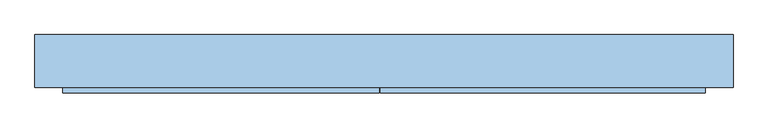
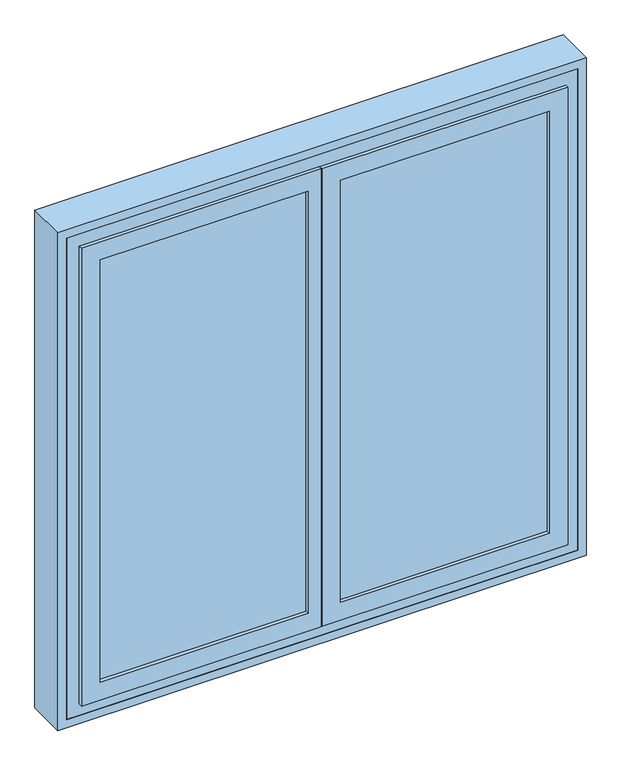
"""IFC4 building model written with IfcOpenShell, lengths in millimetres: window geometry, Окно 2-Распашное - Разделенные наружные и парные внутренние переплеты с остеклением - ГОСТ 11214-2003 : ОД РСП Г1 1760-1770-138 ГОСТ 11214-2003."""

from ifc_helpers import new_model, si_unit, frame, origin, place, context, project, spatial, polyline, outline, extrude, faceted_brep, source, transform, mapped, element, save


def window_825c4489(model_context):
    return source(origin(), model_context, "Body", "SolidModel", [
        extrude(outline(polyline([(2620.0, -935.0), (800.0, -935.0), (800.0, 895.0), (2620.0, 895.0), (2620.0, -935.0)]), holes=[polyline([(2590.0, 865.0), (830.0, 865.0), (830.0, -905.0), (2590.0, -905.0), (2590.0, 865.0)])]), frame((0.0, 167.0, 0.0), z_axis=(0.0, 1.0, 0.0), x_axis=(0.0, 0.0, 1.0)), (0.0, 0.0, 1.0), 138.0),
        extrude(outline(polyline([(764.0, 262.0), (764.0, 259.0), (15.0, 259.0), (15.0, 262.0), (764.0, 262.0)])), frame((0.0, 0.0, 931.0), z_axis=(0.0, 0.0, 1.0), x_axis=(1.0, 0.0, 0.0)), (0.0, 0.0, 1.0), 1558.0),
        faceted_brep([(800.0, 259.0, 2525.0), (800.0, 259.0, 895.0), (800.0, 287.0, 895.0), (800.0, 287.0, 2525.0), (-20.0, 259.0, 895.0), (-20.0, 287.0, 895.0), (-30.0, 259.0, 2534.0), (809.0, 259.0, 2534.0), (809.0, 259.0, 886.0), (-30.0, 259.0, 886.0), (-30.0, 259.0, 895.0), (-20.0, 259.0, 2525.0), (-30.0, 259.0, 2525.0), (-20.0, 287.0, 2525.0), (-20.0, 257.0, 895.0), (-20.0, 257.0, 2525.0), (744.0, 287.0, 951.0), (744.0, 287.0, 2469.0), (35.0, 287.0, 2469.0), (35.0, 287.0, 951.0), (-30.0, 257.0, 2525.0), (-30.0, 257.0, 895.0), (-30.0, 246.0, 886.0), (-30.0, 246.0, 2534.0), (809.0, 246.0, 886.0), (809.0, 246.0, 2534.0), (744.0, 246.0, 2469.0), (744.0, 246.0, 951.0), (35.0, 246.0, 951.0), (35.0, 246.0, 2469.0), (744.0, 259.0, 2469.0), (744.0, 259.0, 951.0), (35.0, 259.0, 951.0), (35.0, 259.0, 2469.0), (764.0, 259.0, 2489.0), (764.0, 259.0, 931.0), (15.0, 259.0, 931.0), (15.0, 259.0, 2489.0), (764.0, 262.0, 2489.0), (764.0, 262.0, 931.0), (15.0, 262.0, 931.0), (15.0, 262.0, 2489.0), (744.0, 262.0, 2469.0), (744.0, 262.0, 951.0), (35.0, 262.0, 951.0), (35.0, 262.0, 2469.0)], [[[0, 1, 2, 3]], [[2, 1, 4, 5]], [[6, 7, 8, 9, 10, 4, 1, 0, 11, 12]], [[11, 13, 5, 4, 14, 15]], [[3, 2, 5, 13], [16, 17, 18, 19]], [[20, 21, 10, 9, 22, 23, 6, 12]], [[21, 20, 15, 14]], [[4, 10, 21, 14]], [[8, 24, 22, 9]], [[24, 25, 23, 22], [26, 27, 28, 29]], [[30, 31, 27, 26]], [[27, 31, 32, 28]], [[29, 28, 32, 33]], [[25, 24, 8, 7]], [[34, 35, 36, 37], [31, 30, 33, 32]], [[38, 39, 35, 34]], [[35, 39, 40, 36]], [[41, 37, 36, 40]], [[39, 38, 41, 40], [42, 43, 44, 45]], [[42, 17, 16, 43]], [[43, 16, 19, 44]], [[45, 44, 19, 18]], [[0, 3, 13, 11]], [[12, 11, 15, 20]], [[23, 25, 7, 6]], [[30, 26, 29, 33]], [[38, 34, 37, 41]], [[17, 42, 45, 18]]]),
        extrude(outline(polyline([(777.0, 212.0), (15.0, 212.0), (15.0, 215.0), (777.0, 215.0), (777.0, 212.0)])), frame((0.0, 0.0, 918.0), z_axis=(0.0, 0.0, 1.0), x_axis=(1.0, 0.0, 0.0)), (0.0, 0.0, 1.0), 1584.0),
        faceted_brep([(812.0, 228.0, 883.0), (812.0, 196.0, 883.0), (-20.0, 196.0, 883.0), (-20.0, 228.0, 883.0), (-20.0, 196.0, 2537.0), (-20.0, 228.0, 2537.0), (812.0, 196.0, 2537.0), (35.0, 196.0, 2482.0), (757.0, 196.0, 2482.0), (757.0, 196.0, 938.0), (35.0, 196.0, 938.0), (812.0, 228.0, 2537.0), (35.0, 228.0, 938.0), (757.0, 228.0, 938.0), (757.0, 228.0, 2482.0), (35.0, 228.0, 2482.0), (757.0, 215.0, 938.0), (35.0, 215.0, 938.0), (35.0, 215.0, 2482.0), (15.0, 215.0, 918.0), (777.0, 215.0, 918.0), (777.0, 215.0, 2502.0), (15.0, 215.0, 2502.0), (757.0, 215.0, 2482.0), (777.0, 212.0, 918.0), (15.0, 212.0, 918.0), (15.0, 212.0, 2502.0), (777.0, 212.0, 2502.0), (35.0, 212.0, 938.0), (757.0, 212.0, 938.0), (757.0, 212.0, 2482.0), (35.0, 212.0, 2482.0)], [[[0, 1, 2, 3]], [[3, 2, 4, 5]], [[2, 1, 6, 4], [7, 8, 9, 10]], [[5, 11, 0, 3], [12, 13, 14, 15]], [[16, 13, 12, 17]], [[17, 12, 15, 18]], [[19, 20, 21, 22], [18, 23, 16, 17]], [[24, 20, 19, 25]], [[25, 19, 22, 26]], [[26, 27, 24, 25], [28, 29, 30, 31]], [[9, 29, 28, 10]], [[10, 28, 31, 7]], [[11, 6, 1, 0]], [[23, 14, 13, 16]], [[27, 21, 20, 24]], [[8, 30, 29, 9]], [[5, 4, 6, 11]], [[18, 15, 14, 23]], [[26, 22, 21, 27]], [[7, 31, 30, 8]]]),
        faceted_brep([(-30.0, 152.0, 873.0383918), (821.9616082, 152.0, 873.0383918), (821.9616082, 152.0, 2546.9616082), (-30.0, 152.0, 2546.9616082), (756.9616082, 152.0, 938.0383918), (35.0, 152.0, 938.0383918), (35.0, 152.0, 2481.9616082), (756.9616082, 152.0, 2481.9616082), (-30.0, 165.0, 873.0383918), (821.9616082, 165.0, 873.0383918), (821.9616082, 165.0, 2546.9616082), (-30.0, 165.0, 2546.9616082), (756.9616082, 165.0, 938.0383918), (35.0, 165.0, 938.0383918), (35.0, 165.0, 2481.9616082), (756.9616082, 165.0, 2481.9616082), (812.0, 165.0, 2537.0), (812.0, 165.0, 883.0), (812.0, 194.0, 883.0), (812.0, 194.0, 2537.0), (-20.0, 165.0, 2537.0), (-20.0, 165.0, 883.0), (-20.0, 194.0, 2537.0), (-20.0, 194.0, 883.0), (756.9616082, 194.0, 2481.9616082), (35.0, 194.0, 2481.9616082), (35.0, 194.0, 938.0383918), (756.9616082, 194.0, 938.0383918), (777.0, 168.0, 918.0), (777.0, 168.0, 2502.0), (15.0, 168.0, 2502.0), (15.0, 168.0, 918.0), (756.9616082, 168.0, 2481.9616082), (756.9616082, 168.0, 938.0383918), (35.0, 168.0, 938.0383918), (35.0, 168.0, 2481.9616082), (777.0, 165.0, 918.0), (777.0, 165.0, 2502.0), (15.0, 165.0, 2502.0), (15.0, 165.0, 918.0)], [[[0, 1, 2, 3], [4, 5, 6, 7]], [[0, 8, 9, 1]], [[2, 1, 9, 10]], [[0, 3, 11, 8]], [[4, 12, 13, 5]], [[6, 5, 13, 14]], [[15, 12, 4, 7]], [[16, 17, 18, 19]], [[11, 10, 9, 8], [17, 16, 20, 21]], [[21, 20, 22, 23]], [[23, 18, 17, 21]], [[23, 22, 19, 18], [24, 25, 26, 27]], [[28, 29, 30, 31], [32, 33, 34, 35]], [[32, 24, 27, 33]], [[33, 27, 26, 34]], [[35, 34, 26, 25]], [[29, 28, 36, 37]], [[31, 30, 38, 39]], [[39, 36, 28, 31]], [[37, 36, 39, 38], [15, 14, 13, 12]], [[11, 3, 2, 10]], [[15, 7, 6, 14]], [[19, 22, 20, 16]], [[24, 32, 35, 25]], [[30, 29, 37, 38]]]),
        extrude(outline(polyline([(15.0, 165.0), (15.0, 168.0), (777.0, 168.0), (777.0, 165.0), (15.0, 165.0)])), frame((0.0, 0.0, 918.0), z_axis=(0.0, 0.0, 1.0), x_axis=(1.0, 0.0, 0.0)), (0.0, 0.0, 1.0), 1584.0),
        faceted_brep([(-22.0, 287.0, 895.0), (-22.0, 259.0, 895.0), (-32.0, 259.0, 895.0), (-840.0, 259.0, 895.0), (-840.0, 287.0, 895.0), (-22.0, 287.0, 2525.0), (-22.0, 259.0, 2525.0), (-32.0, 259.0, 2525.0), (-32.0, 259.0, 2534.0), (-840.0, 259.0, 2525.0), (-32.0, 259.0, 886.0), (-849.0, 259.0, 886.0), (-849.0, 259.0, 2534.0), (-840.0, 287.0, 2525.0), (-77.0, 287.0, 951.0), (-77.0, 287.0, 2469.0), (-784.0, 287.0, 2469.0), (-784.0, 287.0, 951.0), (-77.0, 262.0, 951.0), (-77.0, 262.0, 2469.0), (-784.0, 262.0, 2469.0), (-784.0, 262.0, 951.0), (-804.0, 262.0, 2489.0), (-804.0, 262.0, 931.0), (-57.0, 262.0, 931.0), (-57.0, 262.0, 2489.0), (-804.0, 259.0, 2489.0), (-804.0, 259.0, 931.0), (-57.0, 259.0, 931.0), (-57.0, 259.0, 2489.0), (-77.0, 259.0, 951.0), (-77.0, 259.0, 2469.0), (-784.0, 259.0, 2469.0), (-784.0, 259.0, 951.0), (-77.0, 246.0, 951.0), (-77.0, 246.0, 2469.0), (-784.0, 246.0, 2469.0), (-784.0, 246.0, 951.0), (-32.0, 246.0, 2534.0), (-849.0, 246.0, 2534.0), (-849.0, 246.0, 886.0), (-32.0, 246.0, 886.0)], [[[0, 1, 2, 3, 4]], [[5, 6, 1, 0]], [[6, 7, 2, 1]], [[8, 7, 9, 3, 2, 10, 11, 12]], [[13, 4, 3, 9]], [[13, 5, 0, 4], [14, 15, 16, 17]], [[15, 14, 18, 19]], [[17, 16, 20, 21]], [[17, 21, 18, 14]], [[22, 23, 24, 25], [19, 18, 21, 20]], [[26, 27, 23, 22]], [[24, 23, 27, 28]], [[25, 24, 28, 29]], [[27, 26, 29, 28], [30, 31, 32, 33]], [[31, 30, 34, 35]], [[36, 37, 33, 32]], [[33, 37, 34, 30]], [[38, 39, 40, 41], [35, 34, 37, 36]], [[12, 11, 40, 39]], [[11, 10, 41, 40]], [[38, 41, 10, 2, 7, 8]], [[7, 6, 5, 13, 9]], [[20, 16, 15, 19]], [[29, 26, 22, 25]], [[36, 32, 31, 35]], [[38, 8, 12, 39]]]),
        faceted_brep([(-22.0, 196.0, 883.0), (-22.0, 228.0, 883.0), (-22.0, 228.0, 2537.0), (-22.0, 196.0, 2537.0), (-852.0, 196.0, 883.0), (-852.0, 228.0, 883.0), (-852.0, 228.0, 2537.0), (-797.0, 228.0, 938.0), (-77.0, 228.0, 938.0), (-77.0, 228.0, 2482.0), (-797.0, 228.0, 2482.0), (-852.0, 196.0, 2537.0), (-797.0, 196.0, 938.0), (-797.0, 196.0, 2482.0), (-77.0, 196.0, 2482.0), (-77.0, 196.0, 938.0), (-797.0, 212.0, 938.0), (-797.0, 212.0, 2482.0), (-77.0, 212.0, 2482.0), (-77.0, 212.0, 938.0), (-797.0, 215.0, 938.0), (-77.0, 215.0, 938.0), (-77.0, 215.0, 2482.0), (-797.0, 215.0, 2482.0), (-817.0, 212.0, 918.0), (-817.0, 212.0, 2502.0), (-57.0, 212.0, 2502.0), (-57.0, 212.0, 918.0), (-817.0, 215.0, 2502.0), (-817.0, 215.0, 918.0), (-57.0, 215.0, 918.0), (-57.0, 215.0, 2502.0)], [[[0, 1, 2, 3]], [[1, 0, 4, 5]], [[2, 1, 5, 6], [7, 8, 9, 10]], [[0, 3, 11, 4], [12, 13, 14, 15]], [[13, 12, 16, 17]], [[15, 14, 18, 19]], [[16, 12, 15, 19]], [[4, 11, 6, 5]], [[7, 20, 21, 8]], [[21, 22, 9, 8]], [[7, 10, 23, 20]], [[24, 25, 26, 27], [17, 16, 19, 18]], [[28, 29, 30, 31], [20, 23, 22, 21]], [[29, 28, 25, 24]], [[30, 29, 24, 27]], [[27, 26, 31, 30]], [[11, 3, 2, 6]], [[13, 17, 18, 14]], [[23, 10, 9, 22]], [[26, 25, 28, 31]]]),
        faceted_brep([(-32.0, 152.0, 873.0), (-32.0, 165.0, 873.0), (-32.0, 165.0, 883.0), (-32.0, 167.0, 883.0), (-32.0, 167.0, 2537.0), (-32.0, 165.0, 2537.0), (-32.0, 165.0, 2547.0), (-32.0, 152.0, 2547.0), (-862.0, 152.0, 873.0), (-862.0, 165.0, 873.0), (-852.0, 165.0, 883.0), (-862.0, 165.0, 2547.0), (-852.0, 165.0, 2537.0), (-852.0, 194.0, 883.0), (-22.0, 194.0, 883.0), (-22.0, 167.0, 883.0), (-22.0, 167.0, 2537.0), (-862.0, 152.0, 2547.0), (-797.0, 152.0, 2482.0), (-77.0, 152.0, 2482.0), (-77.0, 152.0, 938.0), (-797.0, 152.0, 938.0), (-852.0, 194.0, 2537.0), (-22.0, 194.0, 2537.0), (-797.0, 194.0, 938.0), (-77.0, 194.0, 938.0), (-77.0, 194.0, 2482.0), (-797.0, 194.0, 2482.0), (-797.0, 168.0, 938.0), (-77.0, 168.0, 938.0), (-77.0, 168.0, 2482.0), (-797.0, 168.0, 2482.0), (-797.0, 165.0, 938.0), (-77.0, 165.0, 938.0), (-797.0, 165.0, 2482.0), (-77.0, 165.0, 2482.0), (-817.0, 165.0, 918.0), (-817.0, 165.0, 2502.0), (-57.0, 165.0, 2502.0), (-57.0, 165.0, 918.0), (-817.0, 168.0, 2502.0), (-817.0, 168.0, 918.0), (-57.0, 168.0, 918.0), (-57.0, 168.0, 2502.0)], [[[0, 1, 2, 3, 4, 5, 6, 7]], [[1, 0, 8, 9]], [[10, 2, 1, 9, 11, 6, 5, 12]], [[10, 13, 14, 15, 3, 2]], [[16, 4, 3, 15]], [[8, 0, 7, 17], [18, 19, 20, 21]], [[9, 8, 17, 11]], [[10, 12, 22, 13]], [[14, 13, 22, 23], [24, 25, 26, 27]], [[23, 16, 15, 14]], [[24, 28, 29, 25]], [[29, 30, 26, 25]], [[24, 27, 31, 28]], [[32, 21, 20, 33]], [[21, 32, 34, 18]], [[20, 19, 35, 33]], [[36, 37, 38, 39], [34, 32, 33, 35]], [[40, 41, 42, 43], [28, 31, 30, 29]], [[41, 40, 37, 36]], [[42, 41, 36, 39]], [[39, 38, 43, 42]], [[23, 22, 12, 5, 4, 16]], [[6, 11, 17, 7]], [[31, 27, 26, 30]], [[18, 34, 35, 19]], [[38, 37, 40, 43]]]),
        extrude(outline(polyline([(-804.0, 259.0), (-804.0, 262.0), (-57.0, 262.0), (-57.0, 259.0), (-804.0, 259.0)])), frame((0.0, 0.0, 931.0), z_axis=(0.0, 0.0, 1.0), x_axis=(1.0, 0.0, 0.0)), (0.0, 0.0, 1.0), 1561.0),
        extrude(outline(polyline([(-817.0, 212.0), (-817.0, 215.0), (-57.0, 215.0), (-57.0, 212.0), (-817.0, 212.0)])), frame((0.0, 0.0, 918.0), z_axis=(0.0, 0.0, 1.0), x_axis=(1.0, 0.0, 0.0)), (0.0, 0.0, 1.0), 1584.0),
        extrude(outline(polyline([(-817.0, 165.0), (-817.0, 168.0), (-57.0, 168.0), (-57.0, 165.0), (-817.0, 165.0)])), frame((0.0, 0.0, 918.0), z_axis=(0.0, 0.0, 1.0), x_axis=(1.0, 0.0, 0.0)), (0.0, 0.0, 1.0), 1584.0),
        faceted_brep([(865.0, 305.0, 830.0), (865.0, 167.0, 830.0), (-905.0, 167.0, 830.0), (-905.0, 305.0, 830.0), (865.0, 167.0, 2590.0), (865.0, 305.0, 2590.0), (-905.0, 167.0, 2590.0), (814.0, 167.0, 2539.0), (814.0, 167.0, 881.0), (-854.0, 167.0, 881.0), (-854.0, 167.0, 2539.0), (-905.0, 305.0, 2590.0), (-824.0, 305.0, 2509.0), (-824.0, 305.0, 887.1764763), (784.0, 305.0, 887.1764763), (784.0, 305.0, 2509.0), (814.0, 261.0, 2539.0), (-854.0, 261.0, 2539.0), (-854.0, 261.0, 881.0), (814.0, 261.0, 881.0), (802.0, 261.0, 2527.0), (802.0, 261.0, 893.0), (-842.0, 261.0, 893.0), (-842.0, 261.0, 2527.0), (-842.0, 289.0, 2527.0), (-842.0, 289.0, 893.0), (802.0, 289.0, 893.0), (784.0, 289.0, 893.0), (-824.0, 289.0, 893.0), (802.0, 289.0, 2527.0), (-824.0, 289.0, 2509.0), (784.0, 289.0, 2509.0)], [[[0, 1, 2, 3]], [[4, 1, 0, 5]], [[2, 1, 4, 6], [7, 8, 9, 10]], [[2, 6, 11, 3]], [[0, 3, 11, 5], [12, 13, 14, 15]], [[16, 17, 18, 19], [20, 21, 22, 23]], [[18, 17, 10, 9]], [[9, 8, 19, 18]], [[24, 23, 22, 25]], [[22, 21, 26, 27, 28, 25]], [[29, 24, 25, 28, 30, 31, 27, 26]], [[12, 30, 28, 13]], [[14, 13, 28, 27]], [[7, 16, 19, 8]], [[20, 29, 26, 21]], [[31, 15, 14, 27]], [[4, 5, 11, 6]], [[16, 7, 10, 17]], [[29, 20, 23, 24]], [[15, 31, 30, 12]]]),
    ])


if __name__ == "__main__":
    model = new_model("IFC4")
    model_context = context("Model", 3, world=origin())
    ifc_project = project(units=[si_unit("LENGTHUNIT", "METRE", prefix="MILLI")], contexts=[model_context])
    site = spatial("IfcSite", under=ifc_project)
    building = spatial("IfcBuilding", under=site)
    placement = place(None, origin())
    window_shape = window_825c4489(model_context)
    element("IfcWindow", 1, ObjectType="Окно 2-Распашное - Разделенные наружные и парные внутренние переплеты с остеклением - ГОСТ 11214-2003 : ОД РСП Г1 1760-1770-138 ГОСТ 11214-2003", at=placement, inside=building, context=model_context, shape_type="MappedRepresentation", body=[
        mapped(window_shape, transform((0.0, 0.0, 0.0), x_axis=(1.0, 0.0, 0.0), y_axis=(0.0, 1.0, 0.0), z_axis=(0.0, 0.0, 1.0))),
    ])
    save(model, "model.ifc")
